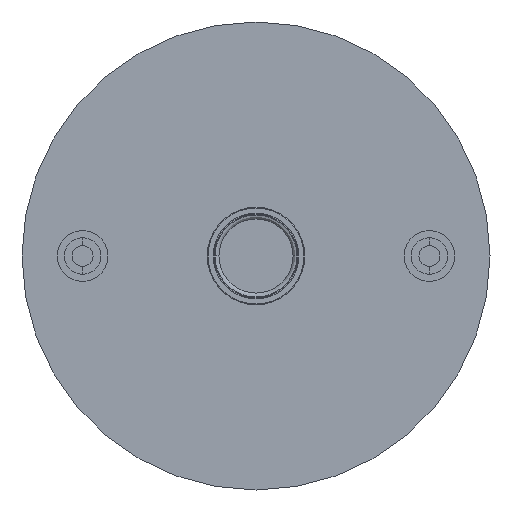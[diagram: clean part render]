
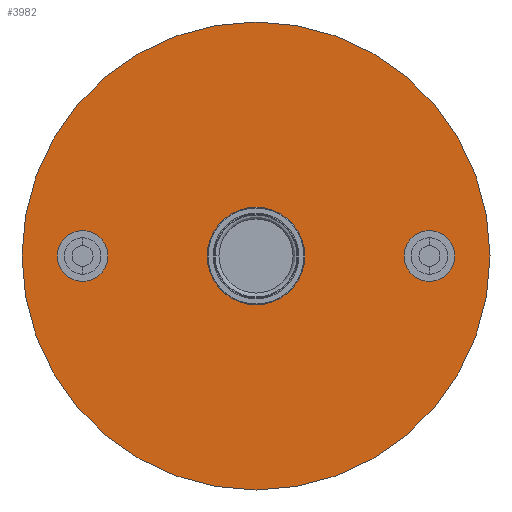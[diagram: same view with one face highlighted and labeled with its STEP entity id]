
A CAD part, front view. The second image highlights one B-rep face of the part: STEP entity #3982.
In plain terms, the highlighted planar face has unit normal (0, -1, 0).
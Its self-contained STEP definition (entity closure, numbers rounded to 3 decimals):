
#7 = DIRECTION ( 'NONE',  ( 0., 0., -1. ) ) ;
#147 = CARTESIAN_POINT ( 'NONE',  ( 0., -1., 0. ) ) ;
#166 = DIRECTION ( 'NONE',  ( 0., 0., -1. ) ) ;
#185 = DIRECTION ( 'NONE',  ( 0., 0., -1. ) ) ;
#249 = VERTEX_POINT ( 'NONE', #2797 ) ;
#284 = VERTEX_POINT ( 'NONE', #871 ) ;
#416 = ORIENTED_EDGE ( 'NONE', *, *, #2021, .F. ) ;
#459 = CARTESIAN_POINT ( 'NONE',  ( -44.45, -1., -4.7 ) ) ;
#539 = CARTESIAN_POINT ( 'NONE',  ( -44.45, -1., 0. ) ) ;
#602 = CIRCLE ( 'NONE', #2211, 4.7 ) ;
#667 = CARTESIAN_POINT ( 'NONE',  ( 0., -1., -60. ) ) ;
#713 = EDGE_LOOP ( 'NONE', ( #987, #1875 ) ) ;
#805 = PLANE ( 'NONE',  #1013 ) ;
#815 = ORIENTED_EDGE ( 'NONE', *, *, #2364, .F. ) ;
#871 = CARTESIAN_POINT ( 'NONE',  ( -44.45, -1., 4.7 ) ) ;
#987 = ORIENTED_EDGE ( 'NONE', *, *, #4481, .F. ) ;
#1013 = AXIS2_PLACEMENT_3D ( 'NONE', #3466, #3835, #7 ) ;
#1053 = EDGE_LOOP ( 'NONE', ( #416, #815 ) ) ;
#1089 = ORIENTED_EDGE ( 'NONE', *, *, #3612, .T. ) ;
#1154 = FACE_BOUND ( 'NONE', #3520, .T. ) ;
#1181 = EDGE_CURVE ( 'NONE', #1642, #3596, #4126, .T. ) ;
#1248 = EDGE_CURVE ( 'NONE', #284, #2240, #4043, .T. ) ;
#1340 = DIRECTION ( 'NONE',  ( 0., 0., -1. ) ) ;
#1485 = DIRECTION ( 'NONE',  ( 0., 0., -1. ) ) ;
#1495 = ORIENTED_EDGE ( 'NONE', *, *, #3661, .F. ) ;
#1500 = ORIENTED_EDGE ( 'NONE', *, *, #1248, .F. ) ;
#1642 = VERTEX_POINT ( 'NONE', #667 ) ;
#1687 = DIRECTION ( 'NONE',  ( 0., 0., -1. ) ) ;
#1688 = VERTEX_POINT ( 'NONE', #3020 ) ;
#1759 = CARTESIAN_POINT ( 'NONE',  ( 0., -1., 5.05 ) ) ;
#1862 = CARTESIAN_POINT ( 'NONE',  ( 0., -1., 0. ) ) ;
#1875 = ORIENTED_EDGE ( 'NONE', *, *, #1181, .F. ) ;
#2021 = EDGE_CURVE ( 'NONE', #1688, #3097, #4853, .T. ) ;
#2034 = AXIS2_PLACEMENT_3D ( 'NONE', #4695, #4248, #2387 ) ;
#2093 = CARTESIAN_POINT ( 'NONE',  ( 0., -1., 60. ) ) ;
#2097 = DIRECTION ( 'NONE',  ( 0., 1., 0. ) ) ;
#2126 = DIRECTION ( 'NONE',  ( 0., -1., 0. ) ) ;
#2211 = AXIS2_PLACEMENT_3D ( 'NONE', #2399, #3617, #1687 ) ;
#2240 = VERTEX_POINT ( 'NONE', #459 ) ;
#2364 = EDGE_CURVE ( 'NONE', #3097, #1688, #602, .T. ) ;
#2387 = DIRECTION ( 'NONE',  ( 0., 0., -1. ) ) ;
#2399 = CARTESIAN_POINT ( 'NONE',  ( 44.45, -1., 0. ) ) ;
#2403 = DIRECTION ( 'NONE',  ( 0., -1., 0. ) ) ;
#2656 = FACE_OUTER_BOUND ( 'NONE', #713, .T. ) ;
#2702 = CIRCLE ( 'NONE', #3746, 5.05 ) ;
#2797 = CARTESIAN_POINT ( 'NONE',  ( 0., -1., -5.05 ) ) ;
#3020 = CARTESIAN_POINT ( 'NONE',  ( 44.45, -1., -4.7 ) ) ;
#3030 = CIRCLE ( 'NONE', #4388, 4.7 ) ;
#3083 = FACE_BOUND ( 'NONE', #1053, .T. ) ;
#3097 = VERTEX_POINT ( 'NONE', #3775 ) ;
#3145 = EDGE_CURVE ( 'NONE', #4459, #249, #2702, .T. ) ;
#3227 = DIRECTION ( 'NONE',  ( 0., 0., -1. ) ) ;
#3280 = AXIS2_PLACEMENT_3D ( 'NONE', #4735, #4314, #185 ) ;
#3466 = CARTESIAN_POINT ( 'NONE',  ( 0., -1., 0. ) ) ;
#3520 = EDGE_LOOP ( 'NONE', ( #1495, #1500 ) ) ;
#3596 = VERTEX_POINT ( 'NONE', #2093 ) ;
#3602 = CARTESIAN_POINT ( 'NONE',  ( 44.45, -1., 0. ) ) ;
#3612 = EDGE_CURVE ( 'NONE', #249, #4459, #3676, .T. ) ;
#3617 = DIRECTION ( 'NONE',  ( 0., -1., 0. ) ) ;
#3661 = EDGE_CURVE ( 'NONE', #2240, #284, #3030, .T. ) ;
#3676 = CIRCLE ( 'NONE', #3280, 5.05 ) ;
#3746 = AXIS2_PLACEMENT_3D ( 'NONE', #4093, #4545, #3796 ) ;
#3775 = CARTESIAN_POINT ( 'NONE',  ( 44.45, -1., 4.7 ) ) ;
#3796 = DIRECTION ( 'NONE',  ( 0., 0., -1. ) ) ;
#3835 = DIRECTION ( 'NONE',  ( 0., -1., 0. ) ) ;
#3853 = FACE_BOUND ( 'NONE', #4489, .T. ) ;
#3982 = ADVANCED_FACE ( 'NONE', ( #3083, #1154, #3853, #2656 ), #805, .T. ) ;
#4043 = CIRCLE ( 'NONE', #2034, 4.7 ) ;
#4044 = CIRCLE ( 'NONE', #4942, 60. ) ;
#4093 = CARTESIAN_POINT ( 'NONE',  ( 0., -1., 0. ) ) ;
#4126 = CIRCLE ( 'NONE', #4850, 60. ) ;
#4248 = DIRECTION ( 'NONE',  ( 0., -1., 0. ) ) ;
#4295 = AXIS2_PLACEMENT_3D ( 'NONE', #3602, #2126, #1340 ) ;
#4314 = DIRECTION ( 'NONE',  ( 0., 1., 0. ) ) ;
#4388 = AXIS2_PLACEMENT_3D ( 'NONE', #539, #2403, #166 ) ;
#4459 = VERTEX_POINT ( 'NONE', #1759 ) ;
#4481 = EDGE_CURVE ( 'NONE', #3596, #1642, #4044, .T. ) ;
#4489 = EDGE_LOOP ( 'NONE', ( #4657, #1089 ) ) ;
#4545 = DIRECTION ( 'NONE',  ( 0., 1., 0. ) ) ;
#4555 = DIRECTION ( 'NONE',  ( 0., 1., 0. ) ) ;
#4657 = ORIENTED_EDGE ( 'NONE', *, *, #3145, .T. ) ;
#4695 = CARTESIAN_POINT ( 'NONE',  ( -44.45, -1., 0. ) ) ;
#4735 = CARTESIAN_POINT ( 'NONE',  ( 0., -1., 0. ) ) ;
#4850 = AXIS2_PLACEMENT_3D ( 'NONE', #147, #2097, #3227 ) ;
#4853 = CIRCLE ( 'NONE', #4295, 4.7 ) ;
#4942 = AXIS2_PLACEMENT_3D ( 'NONE', #1862, #4555, #1485 ) ;
